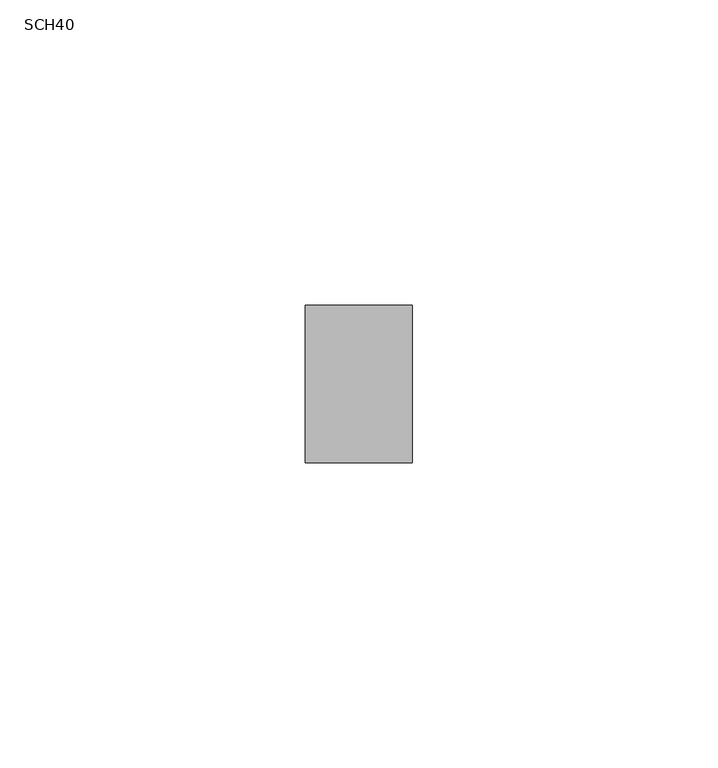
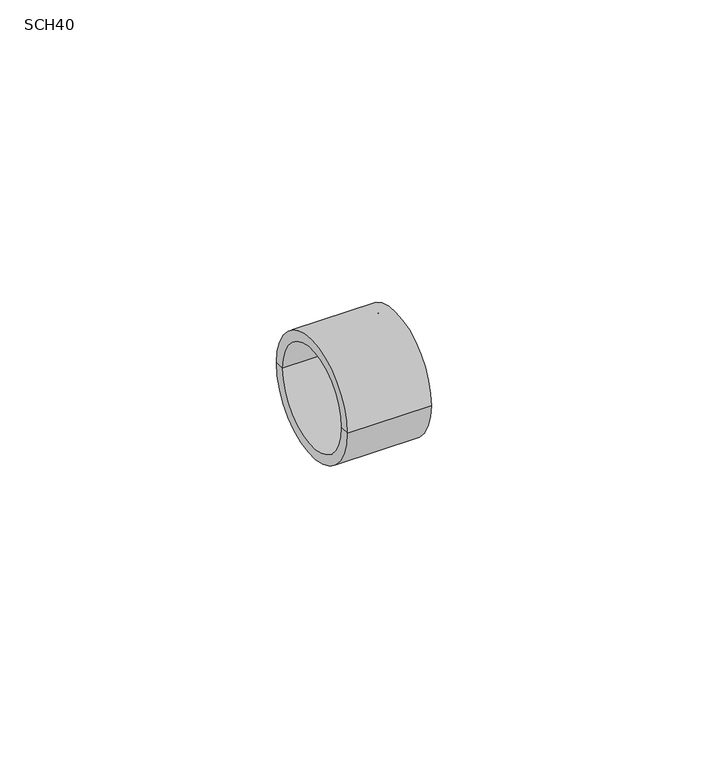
"""IFC4 building model written with IfcOpenShell, lengths in millimetres: cable carrier fitting geometry, PavcoWavin_ConduitFittings_AdaptadorTerminal_Union : SCH40."""

import ifcopenshell
import ifcopenshell.guid

model = None  # the IFC model being written
_history = None  # IfcOwnerHistory: only IFC2X3 demands one
_inside = {}  # id of a spatial element -> (the spatial element, [elements in it])
_under = {}  # id of a project, library or spatial element -> (it, [spatial elements below it])
_declared = {}  # id of a project -> (the project, [libraries it declares])
_typed = {}  # id of a type object -> (the type object, [elements of that type])
_made_of = {}  # id of a material, layer set ... -> (it, [elements and type objects made of it])


def new_model(schema):
    """Start an empty IFC model of exactly this schema.

    Asked for "IFC4X3", IfcOpenShell would pick the latest addendum, in which some entities
    have other attributes; the version numbers below select the first issue.
    IFC2X3 requires an IfcOwnerHistory on every rooted entity: one is made here for all.
    """
    global model, _history
    if schema == "IFC4X3":
        model = ifcopenshell.file(schema_version=(4, 3, 0, 0))
    else:
        model = ifcopenshell.file(schema=schema)
    _inside.clear()
    _under.clear()
    _declared.clear()
    _typed.clear()
    _made_of.clear()
    _history = None
    if model.schema == "IFC2X3":
        org = make("IfcOrganization", Name="unknown")
        user = make(
            "IfcPersonAndOrganization",
            ThePerson=make("IfcPerson", FamilyName="unknown"),
            TheOrganization=org,
        )
        app = make(
            "IfcApplication",
            ApplicationDeveloper=org,
            Version="unknown",
            ApplicationFullName="unknown",
            ApplicationIdentifier="unknown",
        )
        _history = make(
            "IfcOwnerHistory",
            OwningUser=user,
            OwningApplication=app,
            ChangeAction="ADDED",
            CreationDate=0,
        )
    return model


def make(cls, **values):
    """One entity of the class cls with the attributes given. An attribute that is None is left unset."""
    return model.create_entity(
        cls, **{name: value for name, value in values.items() if value is not None}
    )


def rooted(cls, **values):
    """An entity with a GlobalId (a new one), such as an element, a storey or a relation."""
    return make(cls, GlobalId=ifcopenshell.guid.new(), OwnerHistory=_history, **values)


def si_unit(unit_type, name, prefix=None):
    """IfcSIUnit, for example si_unit("LENGTHUNIT", "METRE", prefix="MILLI")."""
    return make("IfcSIUnit", UnitType=unit_type, Prefix=prefix, Name=name)


def assignment(units):
    """IfcUnitAssignment: the units of a project."""
    return None if units is None else make("IfcUnitAssignment", Units=units)


def point(xyz):
    """IfcCartesianPoint."""
    return None if xyz is None else make("IfcCartesianPoint", Coordinates=xyz)


def direction(xyz):
    """IfcDirection."""
    return None if xyz is None else make("IfcDirection", DirectionRatios=xyz)


def frame(location, z_axis=None, x_axis=None):
    """IfcAxis2Placement3D, a coordinate frame: its origin and axes. An axis left out is left unset."""
    return make(
        "IfcAxis2Placement3D",
        Location=point(location),
        Axis=direction(z_axis),
        RefDirection=direction(x_axis),
    )


def origin():
    """The frame at (0, 0, 0) with its axes left unset."""
    return frame((0.0, 0.0, 0.0))


def place(relative_to, where):
    """IfcLocalPlacement: puts the frame where relative to a parent placement (None: the world)."""
    return make(
        "IfcLocalPlacement", PlacementRelTo=relative_to, RelativePlacement=where
    )


def context(
    kind, dimensions, precision=None, world=None, true_north=None, identifier=None
):
    """IfcGeometricRepresentationContext, for example the 3D "Model" context."""
    return make(
        "IfcGeometricRepresentationContext",
        ContextIdentifier=identifier,
        ContextType=kind,
        CoordinateSpaceDimension=dimensions,
        Precision=precision,
        WorldCoordinateSystem=world,
        TrueNorth=true_north,
    )


def project(units=None, contexts=None):
    """IfcProject with its units and contexts."""
    return rooted(
        "IfcProject",
        Name="project",
        RepresentationContexts=contexts,
        UnitsInContext=assignment(units),
    )


def spatial(cls, under=None, at=None, **own):
    """A site, building, storey or space (cls), placed at a placement, below another one or the project."""
    s = rooted(cls, ObjectPlacement=at, **own)
    if under is not None:
        _under.setdefault(under.id(), (under, []))[1].append(s)
    return s


def polyline(points):
    """IfcPolyline through the points."""
    return make("IfcPolyline", Points=[point(p) for p in points])


def circle_curve(where, radius):
    """IfcCircle in the frame where."""
    return make("IfcCircle", Position=where, Radius=radius)


def shape(context_of_items, identifier, shape_type, items):
    """IfcShapeRepresentation: the items that make up one representation, for example the "Body"."""
    return make(
        "IfcShapeRepresentation",
        ContextOfItems=context_of_items,
        RepresentationIdentifier=identifier,
        RepresentationType=shape_type,
        Items=items,
    )


def source(mapping_origin, context_of_items, identifier, shape_type, items):
    """IfcRepresentationMap: a shape defined once, which mapped items show again and again."""
    return make(
        "IfcRepresentationMap",
        MappingOrigin=mapping_origin,
        MappedRepresentation=shape(context_of_items, identifier, shape_type, items),
    )


def transform(
    local_origin,
    x_axis=None,
    y_axis=None,
    z_axis=None,
    scale=None,
    scale2=None,
    scale3=None,
    uniform=True,
):
    """IfcCartesianTransformationOperator3D, or its non-uniform kind. x_axis, y_axis, z_axis: its Axis1, 2, 3."""
    if uniform:
        return make(
            "IfcCartesianTransformationOperator3D",
            Axis1=direction(x_axis),
            Axis2=direction(y_axis),
            LocalOrigin=point(local_origin),
            Scale=scale,
            Axis3=direction(z_axis),
        )
    return make(
        "IfcCartesianTransformationOperator3DnonUniform",
        Axis1=direction(x_axis),
        Axis2=direction(y_axis),
        LocalOrigin=point(local_origin),
        Scale=scale,
        Axis3=direction(z_axis),
        Scale2=scale2,
        Scale3=scale3,
    )


def mapped(mapping_source, mapping_target):
    """IfcMappedItem: shows the shape of a source again, moved by a transform."""
    return make(
        "IfcMappedItem", MappingSource=mapping_source, MappingTarget=mapping_target
    )


def made_of(thing, what):
    """Note that an element or type object is made of a material, layer set ...; save() writes the relation."""
    if what is not None:
        _made_of.setdefault(what.id(), (what, []))[1].append(thing)
    return thing


def element(
    cls,
    number,
    at=None,
    inside=None,
    cuts=None,
    type_object=None,
    material=None,
    context=None,
    identifier="Body",
    shape_type=None,
    held_by="IfcProductDefinitionShape",
    body=None,
    shapes=None,
    **own,
):
    """One element of the class cls, such as IfcWall. Its Tag is "e" and its number.

    at: its placement. inside: the storey or other place that contains it. cuts: it is an
    opening in that element (IfcRelVoidsElement). A single representation is given by context,
    identifier, shape_type and body (its items); several are given by shapes. held_by: the class
    of the entity that holds the representations. save() writes the other relations.
    """
    e = rooted(cls, Tag="e%d" % number, ObjectPlacement=at, **own)
    if body is not None:
        shapes = [shape(context, identifier, shape_type, body)]
    if shapes is not None:
        e.Representation = make(held_by, Representations=shapes)
    if inside is not None:
        _inside.setdefault(inside.id(), (inside, []))[1].append(e)
    if cuts is not None:
        rooted(
            "IfcRelVoidsElement", RelatingBuildingElement=cuts, RelatedOpeningElement=e
        )
    if type_object is not None:
        _typed.setdefault(type_object.id(), (type_object, []))[1].append(e)
    return made_of(e, material)


def aggregate(whole, parts):
    """IfcRelAggregates: a whole, such as a stair, and the parts it consists of."""
    return rooted("IfcRelAggregates", RelatingObject=whole, RelatedObjects=parts)


def save(model, path):
    """Write the relations noted so far, then the file.

    IfcRelAggregates (storeys below a building ...), IfcRelContainedInSpatialStructure (elements
    in a storey), IfcRelDefinesByType, IfcRelAssociatesMaterial and IfcRelDeclares: one each for
    every whole, place, type object, material and project.
    """
    for whole, parts in _under.values():
        aggregate(whole, parts)
    for where, things in _inside.values():
        rooted(
            "IfcRelContainedInSpatialStructure",
            RelatedElements=things,
            RelatingStructure=where,
        )
    for kind, things in _typed.values():
        rooted("IfcRelDefinesByType", RelatedObjects=things, RelatingType=kind)
    for what, things in _made_of.values():
        rooted("IfcRelAssociatesMaterial", RelatedObjects=things, RelatingMaterial=what)
    for by, libraries in _declared.values():
        rooted("IfcRelDeclares", RelatingContext=by, RelatedDefinitions=libraries)
    model.write(path)


def plane_surface(at):
    """IfcPlane: the flat surface through the origin of the frame at, square to its z axis."""
    return make("IfcPlane", Position=at)


def cylinder_surface(at, radius):
    """IfcCylindricalSurface: all points at the distance radius from the z axis of the frame at."""
    return make("IfcCylindricalSurface", Position=at, Radius=radius)


def revolved_surface(curve, axis_point, axis_direction):
    """IfcSurfaceOfRevolution: the curve turned about the line through axis_point along axis_direction."""
    return make(
        "IfcSurfaceOfRevolution",
        SweptCurve=make("IfcArbitraryOpenProfileDef", ProfileType="CURVE", Curve=curve),
        AxisPosition=make("IfcAxis1Placement", Location=point(axis_point), Axis=direction(axis_direction)),
    )


def advanced_brep(points, edges, surfaces, faces):
    """IfcAdvancedBrep: a solid bounded by faces that lie on surfaces and meet in shared edges.

    An edge is (start, end): straight between two places in points (the first is 0);
    or (start, end, curve); or (start, end, curve, False) where it runs against its curve.
    A face is (place in surfaces, loops), or (place, loops, False) where it looks against
    its surface's normal. A loop lists edges by number (the first is 1), with a minus sign
    where the edge is run from its end to its start. The first loop is the outer one.
    """
    corners = [point(p) for p in points]
    vertices = [make("IfcVertexPoint", VertexGeometry=c) for c in corners]
    made = []
    for start, end, *more in edges:
        made.append(
            make(
                "IfcEdgeCurve",
                EdgeStart=vertices[start],
                EdgeEnd=vertices[end],
                EdgeGeometry=more[0] if more else make("IfcPolyline", Points=[corners[start], corners[end]]),
                SameSense=more[1] if len(more) > 1 else True,
            )
        )
    hull = []
    for where, loops, *sense in faces:
        bounds = []
        for j, loop in enumerate(loops):
            ring = [make("IfcOrientedEdge", EdgeElement=made[abs(k) - 1], Orientation=k > 0) for k in loop]
            bounds.append(
                make(
                    "IfcFaceOuterBound" if j == 0 else "IfcFaceBound",
                    Bound=make("IfcEdgeLoop", EdgeList=ring),
                    Orientation=True,
                )
            )
        hull.append(make("IfcAdvancedFace", Bounds=bounds, FaceSurface=surfaces[where], SameSense=sense[0] if sense else True))
    return make("IfcAdvancedBrep", Outer=make("IfcClosedShell", CfsFaces=hull))


def sch40_e715ed77(model_context):
    return source(origin(), model_context, "Body", "AdvancedBrep", [
        advanced_brep(
        [(-16.23, -12.86, 0.0), (-16.23, 12.86, 0.0), (1.25, 12.86, 0.0), (1.25, -12.86, 0.0), (-16.23, -10.75, 0.0), (-16.23, 10.75, 0.0), (1.25, 10.75, 0.0), (1.25, -10.75, 0.0)],
        [
            (0, 1, circle_curve(frame((-16.23, 0.0, 0.0), z_axis=(1.0, 0.0, 0.0), x_axis=(0.0, 1.0, 0.0)), 12.86)),
            (1, 2),
            (2, 3, circle_curve(frame((1.25, 0.0, 0.0), z_axis=(-1.0, 0.0, 0.0), x_axis=(0.0, 1.0, 0.0)), 12.86)),
            (3, 0),
            (1, 0, circle_curve(frame((-16.23, 0.0, 0.0), z_axis=(1.0, 0.0, 0.0), x_axis=(0.0, 1.0, 0.0)), 12.86)),
            (3, 2, circle_curve(frame((1.25, 0.0, 0.0), z_axis=(-1.0, 0.0, 0.0), x_axis=(0.0, 1.0, 0.0)), 12.86)),
            (4, 5, circle_curve(frame((-16.23, 0.0, 0.0), z_axis=(1.0, 0.0, 0.0), x_axis=(0.0, 1.0, 0.0)), 10.75)),
            (5, 1),
            (0, 4),
            (5, 4, circle_curve(frame((-16.23, 0.0, 0.0), z_axis=(1.0, 0.0, 0.0), x_axis=(0.0, 1.0, 0.0)), 10.75)),
            (2, 6),
            (6, 7, circle_curve(frame((1.25, 0.0, 0.0), z_axis=(-1.0, 0.0, 0.0), x_axis=(0.0, 1.0, 0.0)), 10.75)),
            (7, 3),
            (7, 6, circle_curve(frame((1.25, 0.0, 0.0), z_axis=(-1.0, 0.0, 0.0), x_axis=(0.0, 1.0, 0.0)), 10.75)),
            (6, 5),
            (4, 7),
        ],
        [
            cylinder_surface(frame((1983.77, 0.0, 0.0), z_axis=(-1.0, 0.0, 0.0), x_axis=(0.0, 1.0, 0.0)), 12.86),
            plane_surface(frame((-16.23, 0.0, 0.0), z_axis=(-1.0, 0.0, 0.0), x_axis=(0.0, 1.0, 0.0))),
            plane_surface(frame((1.25, 0.0, 0.0), z_axis=(1.0, 0.0, 0.0), x_axis=(0.0, 1.0, 0.0))),
            revolved_surface(polyline([(-16.230000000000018, 10.75, 0.0), (1.25, 10.75, 0.0)]), (1983.77, 0.0, 0.0), (-1.0, 0.0, 0.0)),
        ],
        [
            (0, [[1, 2, 3, 4]]),
            (0, [[5, -4, 6, -2]]),
            (1, [[7, 8, -1, 9]]),
            (1, [[10, -9, -5, -8]]),
            (2, [[-3, 11, 12, 13]]),
            (2, [[-6, -13, 14, -11]]),
            (3, [[-12, 15, -7, 16]]),
            (3, [[-14, -16, -10, -15]]),
        ],
    ),
        advanced_brep(
        [(-1.25, -10.75, 0.0), (-1.25, 10.75, 0.0), (1.25, 10.75, 0.0), (1.25, -10.75, 0.0), (-1.25, 0.0, 0.0), (1.25, 0.0, 0.0)],
        [
            (0, 1, circle_curve(frame((-1.25, 0.0, 0.0), z_axis=(1.0, 0.0, 0.0), x_axis=(0.0, 1.0, 0.0)), 10.75)),
            (1, 2),
            (2, 3, circle_curve(frame((1.25, 0.0, 0.0), z_axis=(-1.0, 0.0, 0.0), x_axis=(0.0, 1.0, 0.0)), 10.75)),
            (3, 0),
            (1, 0, circle_curve(frame((-1.25, 0.0, 0.0), z_axis=(1.0, 0.0, 0.0), x_axis=(0.0, 1.0, 0.0)), 10.75)),
            (3, 2, circle_curve(frame((1.25, 0.0, 0.0), z_axis=(-1.0, 0.0, 0.0), x_axis=(0.0, 1.0, 0.0)), 10.75)),
            (4, 1),
            (0, 4),
            (2, 5),
            (5, 3),
        ],
        [
            cylinder_surface(frame((1998.2590145, 0.0, 0.0), z_axis=(-1.0, 0.0, 0.0), x_axis=(0.0, 1.0, 0.0)), 10.75),
            plane_surface(frame((-1.25, 0.0, 0.0), z_axis=(-1.0, 0.0, 0.0), x_axis=(0.0, 1.0, 0.0))),
            plane_surface(frame((1.25, 0.0, 0.0), z_axis=(1.0, 0.0, 0.0), x_axis=(0.0, 1.0, 0.0))),
        ],
        [
            (0, [[1, 2, 3, 4]]),
            (0, [[5, -4, 6, -2]]),
            (1, [[7, -1, 8]]),
            (1, [[-8, -5, -7]]),
            (2, [[-3, 9, 10]]),
            (2, [[-6, -10, -9]]),
        ],
    ),
    ])


if __name__ == "__main__":
    model = new_model("IFC4")
    model_context = context("Model", 3, world=origin())
    ifc_project = project(units=[si_unit("LENGTHUNIT", "METRE", prefix="MILLI")], contexts=[model_context])
    site = spatial("IfcSite", under=ifc_project)
    building = spatial("IfcBuilding", under=site)
    placement = place(None, origin())
    sch40_shape = sch40_e715ed77(model_context)
    element("IfcCableCarrierFitting", 1, ObjectType="PavcoWavin_ConduitFittings_AdaptadorTerminal_Union : SCH40", at=placement, inside=building, context=model_context, shape_type="MappedRepresentation", body=[
        mapped(sch40_shape, transform((0.0, 0.0, 0.0), x_axis=(1.0, 0.0, 0.0), y_axis=(0.0, 1.0, 0.0), z_axis=(0.0, 0.0, 1.0))),
    ])
    save(model, "model.ifc")
